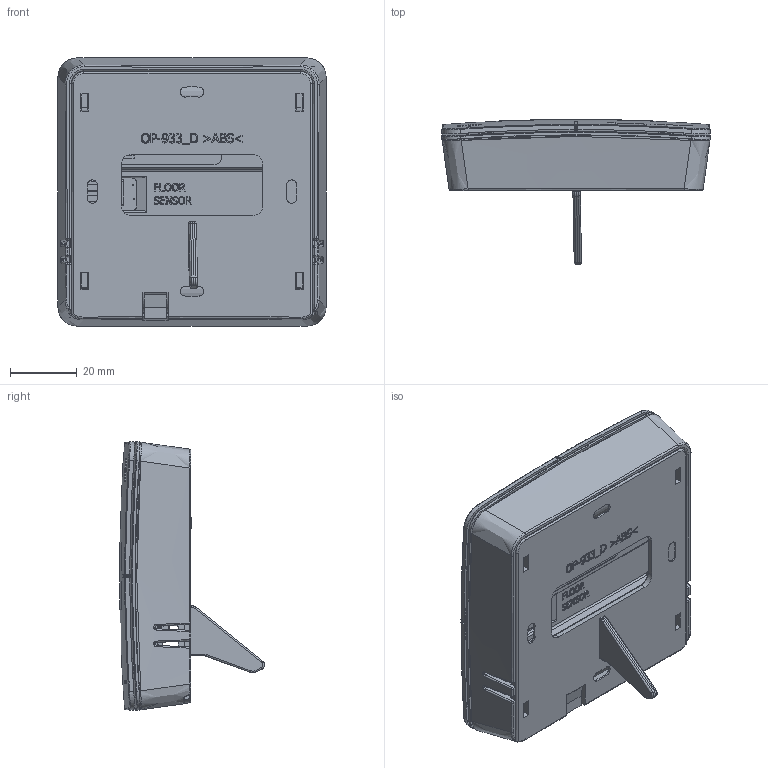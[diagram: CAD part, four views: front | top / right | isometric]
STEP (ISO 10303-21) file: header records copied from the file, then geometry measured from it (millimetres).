
FILE_DESCRIPTION(/* description */ ('','CAx-IF Rec.Pracs.---Representation and Presentation of Product Manufacturing Information (PMI)---4.0---2014-10-13'),/* implementation_level */ '2;1');
FILE_NAME(/* name */ 'R-8x.step',/* time_stamp */ '2025-03-03T20:19:58+01:00',/* author */ (''),/* organization */ (''),/* preprocessor_version */ 'ST-DEVELOPER v20',/* originating_system */ 'Autodesk Translation Framework v13.20.0.188',/* authorisation */ '');
FILE_SCHEMA (('AP242_MANAGED_MODEL_BASED_3D_ENGINEERING_MIM_LF { 1 0 10303 442 1 1 4 }'));
Products named in the file (62): RS-1; R-8x-POKRYWA; OP-933 wer.1; OP-933_A; OP-933_E_1; OP-933_C; OP-933_D; OP-933_B; wago_WAGO2060; Komponent32; logo 33mm v1; OP-933; bateria AA; styk baterii AAA(-); wago ppagf; bateria AA_MIR; styk baterii AAA(-)_MIR1; SWITCH 6X6X3,8_MIR; SWITCH 6X6X3,8_MIR1; SWITCH 6X6X3,8_MIR_MIR; wyswietlacz r8b+; podstawka pod wyswietlacz; PODPORKA1; ST-1008_0_A(5); PCB Component; Board; C0805; DT-06_1; MICRO3; ENS210_PASTE; SPRENZYNKA_POZIOMO_WCIECIE; XT506622A_NEW; C1210; 2X02; WAGO2060; TQFP100; 153CLV-0605; PAWN_SMD_T7; RFM300HW; PADY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
Assembly tree (103 placements, depth 7):
  RS-1
    R-8x-POKRYWA
      OP-933 wer.1
        OP-933_A
        OP-933_E_1
        OP-933_C
        OP-933_D
        OP-933_B
    wago_WAGO2060  x3
    Komponent32
    logo 33mm v1
    OP-933
      bateria AA
      styk baterii AAA(-)
      styk baterii AAA(+)  x2
      SWITCH 6X6X3,8  x2
      wago ppagf
      bateria AA_MIR
      styk baterii AAA(-)_MIR1
      SWITCH 6X6X3,8_MIR
      SWITCH 6X6X3,8_MIR1
      SWITCH 6X6X3,8_MIR_MIR
      wyswietlacz r8b+
      podstawka pod wyswietlacz
      PODPORKA1
      ST-1008_0_A(5)
        PCB Component
          Board
          R0805  x9
          C0603  x17
          ANGLE-SW1-16_1  x4
          C0805
          FIDUCIAL_G10  x4
          DT-06_1
          MICRO3
          C0402  x2
          ENS210_PASTE
          SPRENZYNKA_POZIOMO_WCIECIE
          XT506622A_NEW
          R0603  x3
          C1210
          2X02
          WAGO2060
          TQFP100
          153CLV-0605
          PAWN_SMD_T7
          RFM300HW
            PADY
            PADY2
            PCB
            Component4
            ATX-11 v1
            QFN-16 (4x4x0.9) v1
              QFN-16 (4x4x0.9)
            SOT-23-6 v2
          NTC-10_POZ
          DTSH_1  x4
          OS102011MA1QN1
          C0402 (1)  x2
          L0402
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Bounding box: 80.61 x 43.56 x 80.61 mm (x, y, z)
Volume: 75721.4 mm3; surface area: 99803.3 mm2
Topology: 179 solids, 306 shells, 7601 faces, 20418 edges, 13441 vertices
Faces by surface type: plane 4729, bspline 1337, cylinder 1272, sphere 132, cone 98, torus 33
Full cylindrical faces by diameter (mm): 0.125 x1, 0.356 x2, 0.4 x250, 0.5 x20, 0.585 x3, 0.75 x27, 0.8 x21, 0.85 x4, 1.016 x16, 1.2 x1, 1.329 x4, 1.358 x4, 1.5 x9, 1.7 x4, 2 x8, 2.25 x6, 2.6 x2, 4.528 x2, 5.004 x2, 6.3 x2, 9.349 x2, 9.936 x2, 12.8 x2, 14 x2
Entity records: 256198 total; most frequent: CARTESIAN_POINT 92011, ORIENTED_EDGE 34834, DIRECTION 29662, EDGE_CURVE 17670, LINE 11852, VECTOR 11852, VERTEX_POINT 11748, AXIS2_PLACEMENT_3D 8905
